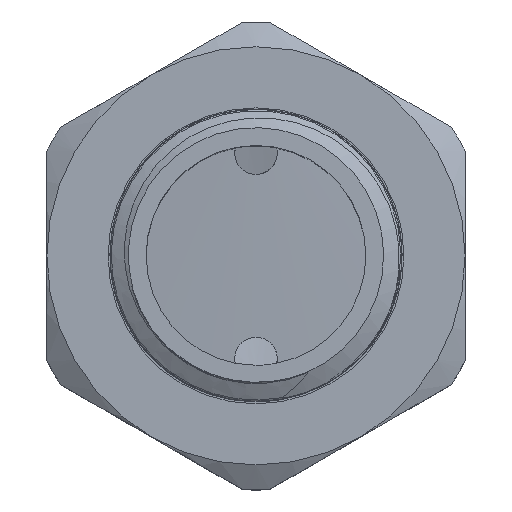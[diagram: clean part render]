
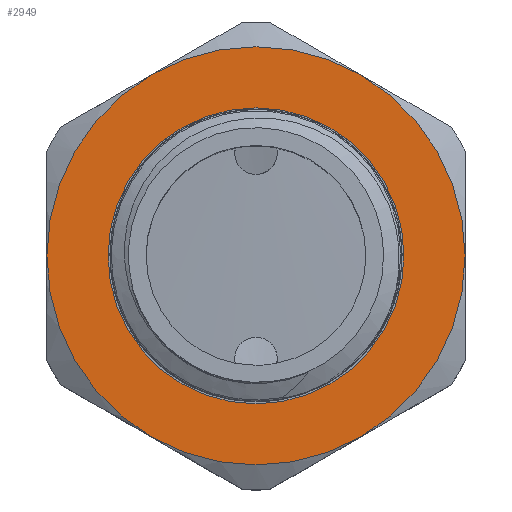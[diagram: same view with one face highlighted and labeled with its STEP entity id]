
A CAD part, top view. The second image highlights one B-rep face of the part: STEP entity #2949.
In plain terms, the highlighted planar face has unit normal (0, 0, 1).
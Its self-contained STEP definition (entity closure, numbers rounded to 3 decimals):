
#184=CIRCLE('',#3233,14.75);
#186=CIRCLE('',#3236,14.75);
#188=CIRCLE('',#3239,14.75);
#189=CIRCLE('',#3241,14.75);
#191=CIRCLE('',#3244,14.75);
#193=CIRCLE('',#3247,14.75);
#202=CIRCLE('',#3274,10.439);
#203=CIRCLE('',#3275,10.439);
#301=FACE_BOUND('',#828,.T.);
#642=FACE_OUTER_BOUND('',#827,.T.);
#827=EDGE_LOOP('',(#2715,#2716,#2717,#2718,#2719,#2720));
#828=EDGE_LOOP('',(#2721,#2722));
#1371=VERTEX_POINT('',#16111);
#1373=VERTEX_POINT('',#16117);
#1375=VERTEX_POINT('',#16124);
#1378=VERTEX_POINT('',#16136);
#1381=VERTEX_POINT('',#16151);
#1384=VERTEX_POINT('',#16163);
#1402=VERTEX_POINT('',#18838);
#1403=VERTEX_POINT('',#18839);
#1786=EDGE_CURVE('',#1371,#1373,#184,.T.);
#1790=EDGE_CURVE('',#1375,#1371,#186,.T.);
#1794=EDGE_CURVE('',#1378,#1375,#188,.T.);
#1796=EDGE_CURVE('',#1381,#1378,#189,.T.);
#1800=EDGE_CURVE('',#1384,#1381,#191,.T.);
#1804=EDGE_CURVE('',#1373,#1384,#193,.T.);
#1843=EDGE_CURVE('',#1402,#1403,#202,.T.);
#1844=EDGE_CURVE('',#1403,#1402,#203,.T.);
#2715=ORIENTED_EDGE('',*,*,#1804,.T.);
#2716=ORIENTED_EDGE('',*,*,#1800,.T.);
#2717=ORIENTED_EDGE('',*,*,#1796,.T.);
#2718=ORIENTED_EDGE('',*,*,#1794,.T.);
#2719=ORIENTED_EDGE('',*,*,#1790,.T.);
#2720=ORIENTED_EDGE('',*,*,#1786,.T.);
#2721=ORIENTED_EDGE('',*,*,#1843,.F.);
#2722=ORIENTED_EDGE('',*,*,#1844,.F.);
#2784=PLANE('',#3273);
#2949=ADVANCED_FACE('',(#642,#301),#2784,.T.);
#3233=AXIS2_PLACEMENT_3D('',#16121,#3825,#3826);
#3236=AXIS2_PLACEMENT_3D('',#16133,#3831,#3832);
#3239=AXIS2_PLACEMENT_3D('',#16145,#3837,#3838);
#3241=AXIS2_PLACEMENT_3D('',#16152,#3841,#3842);
#3244=AXIS2_PLACEMENT_3D('',#16164,#3847,#3848);
#3247=AXIS2_PLACEMENT_3D('',#16175,#3853,#3854);
#3273=AXIS2_PLACEMENT_3D('',#18837,#3919,#3920);
#3274=AXIS2_PLACEMENT_3D('',#18840,#3921,#3922);
#3275=AXIS2_PLACEMENT_3D('',#18841,#3923,#3924);
#3825=DIRECTION('center_axis',(0.,0.,1.));
#3826=DIRECTION('ref_axis',(0.,1.,0.));
#3831=DIRECTION('center_axis',(0.,0.,1.));
#3832=DIRECTION('ref_axis',(0.,1.,0.));
#3837=DIRECTION('center_axis',(0.,0.,1.));
#3838=DIRECTION('ref_axis',(0.,1.,0.));
#3841=DIRECTION('center_axis',(0.,0.,1.));
#3842=DIRECTION('ref_axis',(0.,1.,0.));
#3847=DIRECTION('center_axis',(0.,0.,1.));
#3848=DIRECTION('ref_axis',(0.,1.,0.));
#3853=DIRECTION('center_axis',(0.,0.,1.));
#3854=DIRECTION('ref_axis',(0.,1.,0.));
#3919=DIRECTION('center_axis',(0.,0.,1.));
#3920=DIRECTION('ref_axis',(1.,0.,0.));
#3921=DIRECTION('center_axis',(0.,0.,1.));
#3922=DIRECTION('ref_axis',(1.,0.,0.));
#3923=DIRECTION('center_axis',(0.,0.,1.));
#3924=DIRECTION('ref_axis',(1.,0.,0.));
#16111=CARTESIAN_POINT('',(-7.375,-12.774,12.5));
#16117=CARTESIAN_POINT('',(7.375,-12.774,12.5));
#16121=CARTESIAN_POINT('Origin',(0.,0.,12.5));
#16124=CARTESIAN_POINT('',(-14.75,0.,12.5));
#16133=CARTESIAN_POINT('Origin',(0.,0.,12.5));
#16136=CARTESIAN_POINT('',(-7.375,12.774,12.5));
#16145=CARTESIAN_POINT('Origin',(0.,0.,12.5));
#16151=CARTESIAN_POINT('',(7.375,12.774,12.5));
#16152=CARTESIAN_POINT('Origin',(0.,0.,12.5));
#16163=CARTESIAN_POINT('',(14.75,0.,12.5));
#16164=CARTESIAN_POINT('Origin',(0.,0.,12.5));
#16175=CARTESIAN_POINT('Origin',(0.,0.,12.5));
#18837=CARTESIAN_POINT('Origin',(0.,-10.439,12.5));
#18838=CARTESIAN_POINT('',(0.,-10.439,12.5));
#18839=CARTESIAN_POINT('',(0.,10.439,12.5));
#18840=CARTESIAN_POINT('Origin',(0.,0.,12.5));
#18841=CARTESIAN_POINT('Origin',(0.,0.,12.5));
